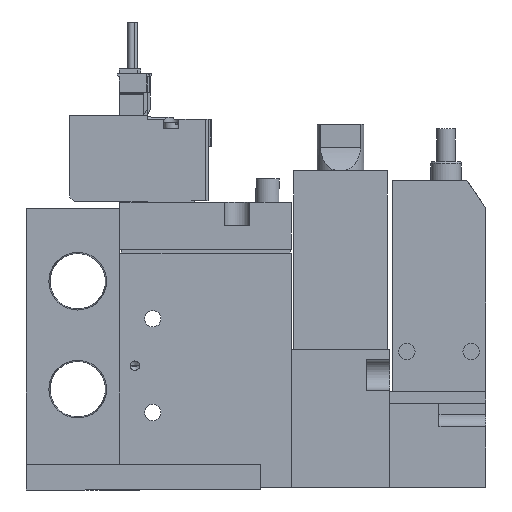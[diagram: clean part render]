
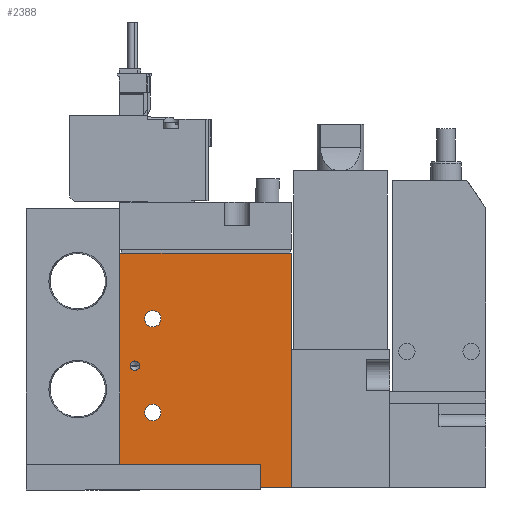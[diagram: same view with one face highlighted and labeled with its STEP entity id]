
A CAD part, left-side view. The second image highlights one B-rep face of the part: STEP entity #2388.
In plain terms, the highlighted planar face has unit normal (-1, 0, 0) as drawn and (1, 0, 0) by its records, which use the part's own axes.
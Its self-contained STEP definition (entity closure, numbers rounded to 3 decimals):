
#2388=ADVANCED_FACE('',(#3648,#3649,#3650,#3651),#3652,.F.);
#3648=FACE_BOUND('',#6425,.T.);
#3649=FACE_BOUND('',#6426,.T.);
#3650=FACE_BOUND('',#6427,.T.);
#3651=FACE_OUTER_BOUND('',#6428,.T.);
#3652=PLANE('',#6429);
#6425=EDGE_LOOP('',(#9342));
#6426=EDGE_LOOP('',(#9343));
#6427=EDGE_LOOP('',(#9344));
#6428=EDGE_LOOP('',(#9345,#9346,#9347,#9348));
#6429=AXIS2_PLACEMENT_3D('',#9349,#9350,#9351);
#9342=ORIENTED_EDGE('',*,*,#18675,.F.);
#9343=ORIENTED_EDGE('',*,*,#18683,.T.);
#9344=ORIENTED_EDGE('',*,*,#18682,.T.);
#9345=ORIENTED_EDGE('',*,*,#18680,.T.);
#9346=ORIENTED_EDGE('',*,*,#18678,.F.);
#9347=ORIENTED_EDGE('',*,*,#18679,.F.);
#9348=ORIENTED_EDGE('',*,*,#18665,.T.);
#9349=CARTESIAN_POINT('',(8.5,-19.444,50.0));
#9350=DIRECTION('',(-1.0,0.0,0.0));
#9351=DIRECTION('',(0.0,0.0,1.0));
#18665=EDGE_CURVE('',#21639,#21637,#21640,.T.);
#18675=EDGE_CURVE('',#21656,#21656,#21657,.T.);
#18678=EDGE_CURVE('',#21660,#21658,#21662,.T.);
#18679=EDGE_CURVE('',#21639,#21660,#21663,.T.);
#18680=EDGE_CURVE('',#21637,#21658,#21664,.T.);
#18682=EDGE_CURVE('',#21665,#21665,#21666,.T.);
#18683=EDGE_CURVE('',#21667,#21667,#21668,.T.);
#21637=VERTEX_POINT('',#26689);
#21639=VERTEX_POINT('',#26692);
#21640=LINE('',#26693,#26694);
#21656=VERTEX_POINT('',#26711);
#21657=CIRCLE('',#26712,1.0);
#21658=VERTEX_POINT('',#26713);
#21660=VERTEX_POINT('',#26716);
#21662=LINE('',#26719,#26720);
#21663=LINE('',#26721,#26722);
#21664=LINE('',#26723,#26724);
#21665=VERTEX_POINT('',#26725);
#21666=CIRCLE('',#26726,1.75);
#21667=VERTEX_POINT('',#26727);
#21668=CIRCLE('',#26728,1.75);
#26689=CARTESIAN_POINT('',(8.5,-19.444,0.0));
#26692=CARTESIAN_POINT('',(8.5,-19.444,50.0));
#26693=CARTESIAN_POINT('',(8.5,-19.444,50.0));
#26694=VECTOR('',#34105,1.0);
#26711=CARTESIAN_POINT('',(8.5,-17.244,26.0));
#26712=AXIS2_PLACEMENT_3D('',#34128,#34129,#34130);
#26713=CARTESIAN_POINT('',(8.5,17.056,0.0));
#26716=CARTESIAN_POINT('',(8.5,17.056,50.0));
#26719=CARTESIAN_POINT('',(8.5,17.056,50.0));
#26720=VECTOR('',#34133,1.0);
#26721=CARTESIAN_POINT('',(8.5,-19.444,50.0));
#26722=VECTOR('',#34134,1.0);
#26723=CARTESIAN_POINT('',(8.5,-19.444,0.0));
#26724=VECTOR('',#34135,1.0);
#26725=CARTESIAN_POINT('',(8.5,-10.694,16.0));
#26726=AXIS2_PLACEMENT_3D('',#34136,#34137,#34138);
#26727=CARTESIAN_POINT('',(8.5,-10.694,36.0));
#26728=AXIS2_PLACEMENT_3D('',#34139,#34140,#34141);
#34105=DIRECTION('',(0.0,0.0,-1.0));
#34128=CARTESIAN_POINT('',(8.5,-16.244,26.0));
#34129=DIRECTION('',(1.0,0.,0.0));
#34130=DIRECTION('',(0.,-1.0,0.0));
#34133=DIRECTION('',(0.0,0.0,-1.0));
#34134=DIRECTION('',(0.0,1.0,0.0));
#34135=DIRECTION('',(0.0,1.0,0.0));
#34136=CARTESIAN_POINT('',(8.5,-12.444,16.0));
#34137=DIRECTION('',(-1.0,0.0,0.0));
#34138=DIRECTION('',(0.0,1.0,0.0));
#34139=CARTESIAN_POINT('',(8.5,-12.444,36.0));
#34140=DIRECTION('',(-1.0,0.0,0.0));
#34141=DIRECTION('',(0.0,1.0,0.0));
